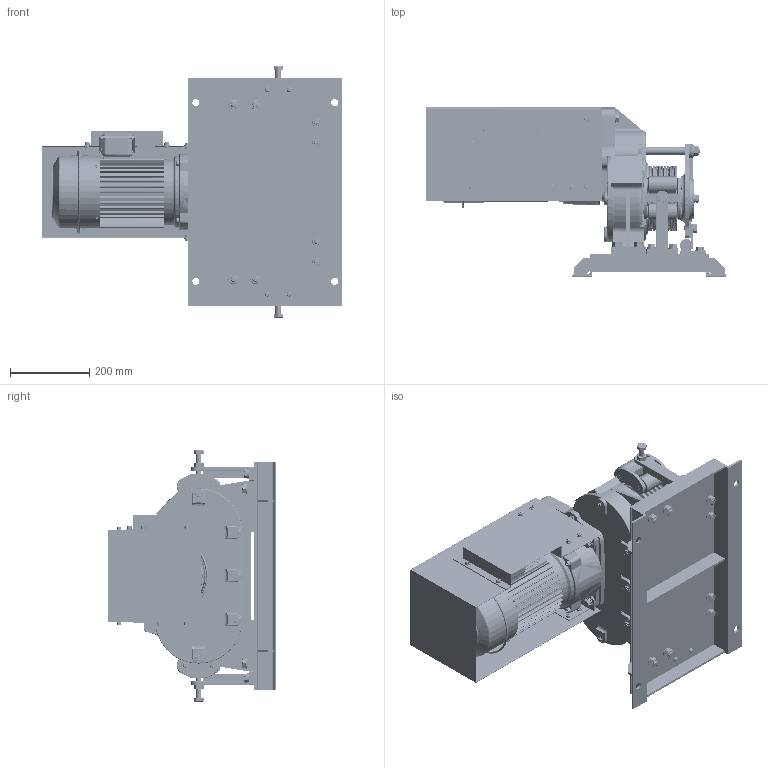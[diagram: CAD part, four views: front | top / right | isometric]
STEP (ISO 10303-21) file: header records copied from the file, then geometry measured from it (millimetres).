
FILE_DESCRIPTION( (''), '2;1');
FILE_NAME ('EME-1300.stp','2023-05-26T16:38:38',(''),(''),'spGate 19.8.2 (****-****-****-****)','','');
FILE_SCHEMA (('AUTOMOTIVE_DESIGN'));
Length unit declared in the file: millimetre
Products named in the file (9): Assembly; EME-1300-prt0; EME-1300-prt1; EME-1300-prt2; EME-1300-prt3; EME-1300-prt4; EME-1300-prt5; EME-1300-prt6; EME-1300-prt7
Assembly tree (8 placements, depth 2):
  Assembly
    EME-1300-prt0
    EME-1300-prt1
    EME-1300-prt2
    EME-1300-prt3
    EME-1300-prt4
    EME-1300-prt5
    EME-1300-prt6
    EME-1300-prt7
Bounding box: 757.5 x 425.73 x 633 mm (x, y, z)
Volume: 30012362 mm3; surface area: 3273575.1 mm2
Topology: 3 solids, 3 shells, 6822 faces, 17510 edges, 11169 vertices
Faces by surface type: plane 3691, cylinder 2094, bspline 1009, sphere 28
Entity records: 379403 total; most frequent: CARTESIAN_POINT 79521, ORIENTED_EDGE 34976, DIRECTION 31984, COLOUR_RGB 24318, PRESENTATION_STYLE_ASSIGNMENT 24318, STYLED_ITEM 24318, EDGE_CURVE 17488, DRAUGHTING_PRE_DEFINED_CURVE_FONT 17488
